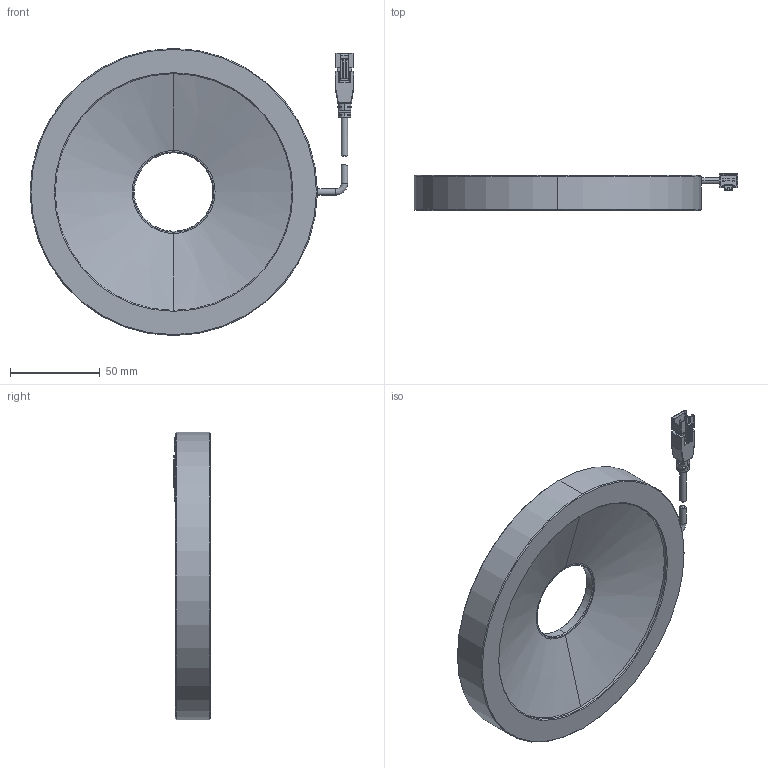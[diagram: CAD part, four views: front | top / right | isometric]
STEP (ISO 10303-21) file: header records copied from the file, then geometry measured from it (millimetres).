
FILE_DESCRIPTION (( 'STEP AP203' ), '1' );
FILE_NAME ('06 MV-LGES-160-W 光源_3d尺寸图（STP）.STEP', '2019-09-19T09:03:43', ( '' ), ( '' ), 'SwSTEP 2.0', 'SolidWorks 2016', '' );
FILE_SCHEMA (( 'CONFIG_CONTROL_DESIGN' ));
Length unit declared in the file: millimetre
Products named in the file (5): JIANYI; 06 MV-LGES-160-W 光源_3d尺寸图（STP）; BODY_12; LINE_TOU; ASSY_ASM
Assembly tree (4 placements, depth 3):
  06 MV-LGES-160-W 光源_3d尺寸图（STP）
    JIANYI
    ASSY_ASM
      LINE_TOU
      BODY_12
Bounding box: 180.1 x 20.55 x 159.69 mm (x, y, z)
Volume: 277067.3 mm3; surface area: 51091.4 mm2
Topology: 3 solids, 3 shells, 277 faces, 697 edges, 417 vertices
Faces by surface type: plane 131, cylinder 86, bspline 28, cone 26, torus 6
Entity records: 9208 total; most frequent: CARTESIAN_POINT 2289, ORIENTED_EDGE 1338, DIRECTION 1337, EDGE_CURVE 669, AXIS2_PLACEMENT_3D 465, VERTEX_POINT 417, VECTOR 407, LINE 407
